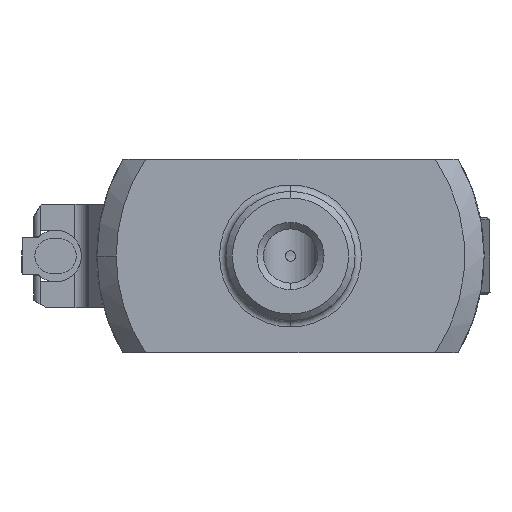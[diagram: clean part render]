
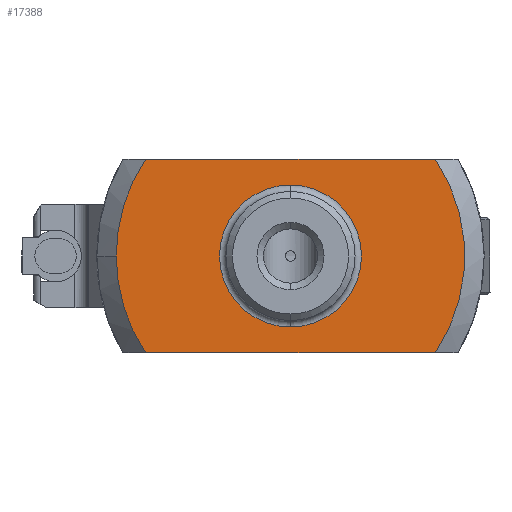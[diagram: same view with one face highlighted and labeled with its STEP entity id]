
A CAD part, front view. The second image highlights one B-rep face of the part: STEP entity #17388.
In plain terms, the highlighted planar face has unit normal (0, -1, 0).
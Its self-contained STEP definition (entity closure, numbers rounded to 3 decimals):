
#719 = CIRCLE ( 'NONE', #37908, 5.5 ) ;
#810 = AXIS2_PLACEMENT_3D ( 'NONE', #28341, #28436, #28479 ) ;
#1369 = AXIS2_PLACEMENT_3D ( 'NONE', #39330, #21117, #3016 ) ;
#1550 = CIRCLE ( 'NONE', #810, 5.5 ) ;
#1869 = EDGE_CURVE ( 'NONE', #3178, #37224, #23430, .T. ) ;
#1904 = CARTESIAN_POINT ( 'NONE',  ( 0., -24., -7.5 ) ) ;
#3016 = DIRECTION ( 'NONE',  ( -1., 0., 0. ) ) ;
#3178 = VERTEX_POINT ( 'NONE', #15152 ) ;
#5412 = FACE_OUTER_BOUND ( 'NONE', #22606, .T. ) ;
#5492 = ORIENTED_EDGE ( 'NONE', *, *, #31700, .F. ) ;
#6291 = DIRECTION ( 'NONE',  ( 0., 1., 0. ) ) ;
#6303 = DIRECTION ( 'NONE',  ( -1., 0., 0. ) ) ;
#6570 = CARTESIAN_POINT ( 'NONE',  ( 0., -24., -15. ) ) ;
#7374 = VECTOR ( 'NONE', #34751, 1000. ) ;
#7416 = EDGE_CURVE ( 'NONE', #9728, #23034, #719, .T. ) ;
#9728 = VERTEX_POINT ( 'NONE', #25605 ) ;
#10726 = EDGE_CURVE ( 'NONE', #35288, #15933, #38809, .T. ) ;
#12525 = FACE_BOUND ( 'NONE', #21186, .T. ) ;
#12639 = AXIS2_PLACEMENT_3D ( 'NONE', #1904, #18729, #19490 ) ;
#13114 = CARTESIAN_POINT ( 'NONE',  ( 11.225, -24., 0. ) ) ;
#13892 = CARTESIAN_POINT ( 'NONE',  ( -11.225, -24., -15. ) ) ;
#14090 = CIRCLE ( 'NONE', #31616, 13.5 ) ;
#14150 = LINE ( 'NONE', #6570, #28300 ) ;
#14939 = EDGE_CURVE ( 'NONE', #23034, #9728, #1550, .T. ) ;
#15152 = CARTESIAN_POINT ( 'NONE',  ( -11.225, -24., 0. ) ) ;
#15399 = ORIENTED_EDGE ( 'NONE', *, *, #1869, .F. ) ;
#15933 = VERTEX_POINT ( 'NONE', #13892 ) ;
#16978 = CIRCLE ( 'NONE', #1369, 13.5 ) ;
#17388 = ADVANCED_FACE ( 'NONE', ( #12525, #5412 ), #20912, .T. ) ;
#18729 = DIRECTION ( 'NONE',  ( 0., -1., 0. ) ) ;
#19067 = ORIENTED_EDGE ( 'NONE', *, *, #10726, .T. ) ;
#19180 = ORIENTED_EDGE ( 'NONE', *, *, #21700, .F. ) ;
#19490 = DIRECTION ( 'NONE',  ( -1., 0., 0. ) ) ;
#19602 = CARTESIAN_POINT ( 'NONE',  ( 0., -24., 0. ) ) ;
#20741 = CARTESIAN_POINT ( 'NONE',  ( 13.662, -24., 0. ) ) ;
#20912 = PLANE ( 'NONE',  #36156 ) ;
#21027 = DIRECTION ( 'NONE',  ( 0., -1., 0. ) ) ;
#21062 = DIRECTION ( 'NONE',  ( -1., 0., 0. ) ) ;
#21117 = DIRECTION ( 'NONE',  ( 0., -1., 0. ) ) ;
#21186 = EDGE_LOOP ( 'NONE', ( #34477, #29590 ) ) ;
#21700 = EDGE_CURVE ( 'NONE', #38019, #15933, #14150, .T. ) ;
#22606 = EDGE_LOOP ( 'NONE', ( #19180, #5492, #15399, #37767, #19067 ) ) ;
#23034 = VERTEX_POINT ( 'NONE', #31331 ) ;
#23043 = CARTESIAN_POINT ( 'NONE',  ( 11.225, -24., -15. ) ) ;
#23430 = LINE ( 'NONE', #19602, #7374 ) ;
#24365 = CARTESIAN_POINT ( 'NONE',  ( 0., -24., -7.5 ) ) ;
#25605 = CARTESIAN_POINT ( 'NONE',  ( 0., -24., -2. ) ) ;
#27417 = CARTESIAN_POINT ( 'NONE',  ( 0., -24., -7.5 ) ) ;
#27423 = DIRECTION ( 'NONE',  ( -1., 0., 0. ) ) ;
#27453 = DIRECTION ( 'NONE',  ( 0., 1., 0. ) ) ;
#27508 = DIRECTION ( 'NONE',  ( 0., 0., -1. ) ) ;
#28027 = EDGE_CURVE ( 'NONE', #3178, #35288, #16978, .T. ) ;
#28300 = VECTOR ( 'NONE', #6303, 1000. ) ;
#28341 = CARTESIAN_POINT ( 'NONE',  ( 0., -24., -7.5 ) ) ;
#28436 = DIRECTION ( 'NONE',  ( 0., 1., 0. ) ) ;
#28479 = DIRECTION ( 'NONE',  ( 0., 0., -1. ) ) ;
#29590 = ORIENTED_EDGE ( 'NONE', *, *, #7416, .T. ) ;
#31331 = CARTESIAN_POINT ( 'NONE',  ( 0., -24., -13. ) ) ;
#31616 = AXIS2_PLACEMENT_3D ( 'NONE', #24365, #6291, #27423 ) ;
#31700 = EDGE_CURVE ( 'NONE', #37224, #38019, #14090, .T. ) ;
#32673 = CARTESIAN_POINT ( 'NONE',  ( -13.5, -24., -7.5 ) ) ;
#34477 = ORIENTED_EDGE ( 'NONE', *, *, #14939, .T. ) ;
#34751 = DIRECTION ( 'NONE',  ( 1., 0., 0. ) ) ;
#35288 = VERTEX_POINT ( 'NONE', #32673 ) ;
#36156 = AXIS2_PLACEMENT_3D ( 'NONE', #20741, #21027, #21062 ) ;
#37224 = VERTEX_POINT ( 'NONE', #13114 ) ;
#37767 = ORIENTED_EDGE ( 'NONE', *, *, #28027, .T. ) ;
#37908 = AXIS2_PLACEMENT_3D ( 'NONE', #27417, #27453, #27508 ) ;
#38019 = VERTEX_POINT ( 'NONE', #23043 ) ;
#38809 = CIRCLE ( 'NONE', #12639, 13.5 ) ;
#39330 = CARTESIAN_POINT ( 'NONE',  ( 0., -24., -7.5 ) ) ;
